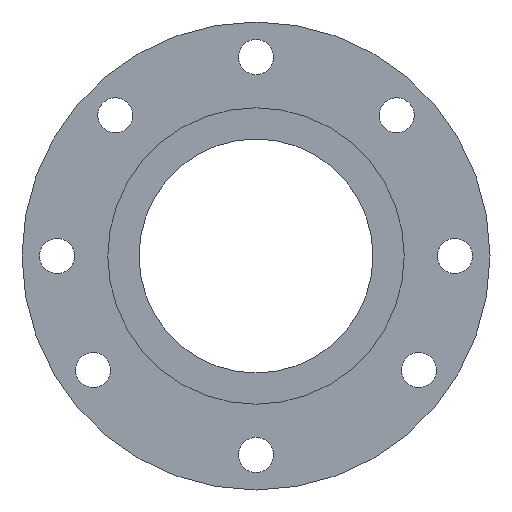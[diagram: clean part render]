
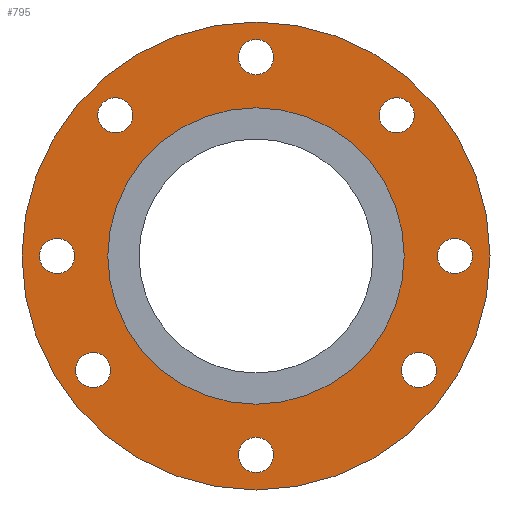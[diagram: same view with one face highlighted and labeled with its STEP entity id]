
A CAD part, left-side view. The second image highlights one B-rep face of the part: STEP entity #795.
In plain terms, the highlighted planar face has unit normal (-1, 0, 0).
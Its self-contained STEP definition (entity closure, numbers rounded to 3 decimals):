
#377=CARTESIAN_POINT('',(-14.,0.0,-60.));
#378=VERTEX_POINT('',#377);
#379=CARTESIAN_POINT('',(-14.,0.0,0.0));
#380=DIRECTION('',(1.0,0.0,0.0));
#381=DIRECTION('',(0.0,0.0,-1.0));
#382=AXIS2_PLACEMENT_3D('',#379,#380,#381);
#383=CIRCLE('',#382,60.);
#384=EDGE_CURVE('',#378,#378,#383,.T.);
#418=CARTESIAN_POINT('',(-14.,0.,55.5));
#419=VERTEX_POINT('',#418);
#420=CARTESIAN_POINT('',(-14.,0.,51.));
#421=DIRECTION('',(1.0,0.0,0.0));
#422=DIRECTION('',(0.0,0.0,-1.0));
#423=AXIS2_PLACEMENT_3D('',#420,#421,#422);
#424=CIRCLE('',#423,4.5);
#425=EDGE_CURVE('',#419,#419,#424,.T.);
#459=CARTESIAN_POINT('',(-14.,-51.,4.5));
#460=VERTEX_POINT('',#459);
#461=CARTESIAN_POINT('',(-14.,-51.,0.0));
#462=DIRECTION('',(1.0,0.0,0.0));
#463=DIRECTION('',(0.0,0.0,-1.0));
#464=AXIS2_PLACEMENT_3D('',#461,#462,#463);
#465=CIRCLE('',#464,4.5);
#466=EDGE_CURVE('',#460,#460,#465,.T.);
#500=CARTESIAN_POINT('',(-14.,51.,4.5));
#501=VERTEX_POINT('',#500);
#502=CARTESIAN_POINT('',(-14.,51.,0.0));
#503=DIRECTION('',(1.0,0.0,0.0));
#504=DIRECTION('',(0.0,0.0,-1.0));
#505=AXIS2_PLACEMENT_3D('',#502,#503,#504);
#506=CIRCLE('',#505,4.5);
#507=EDGE_CURVE('',#501,#501,#506,.T.);
#541=CARTESIAN_POINT('',(-14.,-41.777,-24.752));
#542=VERTEX_POINT('',#541);
#543=CARTESIAN_POINT('',(-14.,-41.777,-29.252));
#544=DIRECTION('',(1.0,0.0,0.0));
#545=DIRECTION('',(0.0,0.0,-1.0));
#546=AXIS2_PLACEMENT_3D('',#543,#544,#545);
#547=CIRCLE('',#546,4.5);
#548=EDGE_CURVE('',#542,#542,#547,.T.);
#582=CARTESIAN_POINT('',(-14.,0.,-46.5));
#583=VERTEX_POINT('',#582);
#584=CARTESIAN_POINT('',(-14.,0.0,-51.));
#585=DIRECTION('',(1.0,0.0,0.0));
#586=DIRECTION('',(0.0,0.0,-1.0));
#587=AXIS2_PLACEMENT_3D('',#584,#585,#586);
#588=CIRCLE('',#587,4.5);
#589=EDGE_CURVE('',#583,#583,#588,.T.);
#623=CARTESIAN_POINT('',(-14.,41.777,-24.752));
#624=VERTEX_POINT('',#623);
#625=CARTESIAN_POINT('',(-14.,41.777,-29.252));
#626=DIRECTION('',(1.0,0.0,0.0));
#627=DIRECTION('',(0.0,0.0,-1.0));
#628=AXIS2_PLACEMENT_3D('',#625,#626,#627);
#629=CIRCLE('',#628,4.5);
#630=EDGE_CURVE('',#624,#624,#629,.T.);
#664=CARTESIAN_POINT('',(-14.,36.062,40.562));
#665=VERTEX_POINT('',#664);
#666=CARTESIAN_POINT('',(-14.,36.062,36.062));
#667=DIRECTION('',(1.0,0.0,0.0));
#668=DIRECTION('',(0.0,0.0,-1.0));
#669=AXIS2_PLACEMENT_3D('',#666,#667,#668);
#670=CIRCLE('',#669,4.5);
#671=EDGE_CURVE('',#665,#665,#670,.T.);
#705=CARTESIAN_POINT('',(-14.,-36.062,40.562));
#706=VERTEX_POINT('',#705);
#707=CARTESIAN_POINT('',(-14.,-36.062,36.062));
#708=DIRECTION('',(1.0,0.0,0.0));
#709=DIRECTION('',(0.0,0.0,-1.0));
#710=AXIS2_PLACEMENT_3D('',#707,#708,#709);
#711=CIRCLE('',#710,4.5);
#712=EDGE_CURVE('',#706,#706,#711,.T.);
#745=CARTESIAN_POINT('',(-14.,0.0,-38.0));
#746=VERTEX_POINT('',#745);
#747=CARTESIAN_POINT('',(-14.,0.0,0.0));
#748=DIRECTION('',(1.0,0.0,0.0));
#749=DIRECTION('',(0.0,0.0,-1.0));
#750=AXIS2_PLACEMENT_3D('',#747,#748,#749);
#751=CIRCLE('',#750,38.0);
#752=EDGE_CURVE('',#746,#746,#751,.T.);
#760=CARTESIAN_POINT('',(-14.,0.0,-49.));
#761=DIRECTION('',(-1.0,0.0,0.0));
#762=DIRECTION('',(0.0,0.0,1.0));
#763=AXIS2_PLACEMENT_3D('',#760,#761,#762);
#764=PLANE('',#763);
#765=ORIENTED_EDGE('',*,*,#384,.F.);
#766=EDGE_LOOP('',(#765));
#767=FACE_OUTER_BOUND('',#766,.T.);
#768=ORIENTED_EDGE('',*,*,#425,.T.);
#769=EDGE_LOOP('',(#768));
#770=FACE_BOUND('',#769,.T.);
#771=ORIENTED_EDGE('',*,*,#466,.T.);
#772=EDGE_LOOP('',(#771));
#773=FACE_BOUND('',#772,.T.);
#774=ORIENTED_EDGE('',*,*,#507,.T.);
#775=EDGE_LOOP('',(#774));
#776=FACE_BOUND('',#775,.T.);
#777=ORIENTED_EDGE('',*,*,#548,.T.);
#778=EDGE_LOOP('',(#777));
#779=FACE_BOUND('',#778,.T.);
#780=ORIENTED_EDGE('',*,*,#589,.T.);
#781=EDGE_LOOP('',(#780));
#782=FACE_BOUND('',#781,.T.);
#783=ORIENTED_EDGE('',*,*,#630,.T.);
#784=EDGE_LOOP('',(#783));
#785=FACE_BOUND('',#784,.T.);
#786=ORIENTED_EDGE('',*,*,#671,.T.);
#787=EDGE_LOOP('',(#786));
#788=FACE_BOUND('',#787,.T.);
#789=ORIENTED_EDGE('',*,*,#712,.T.);
#790=EDGE_LOOP('',(#789));
#791=FACE_BOUND('',#790,.T.);
#792=ORIENTED_EDGE('',*,*,#752,.T.);
#793=EDGE_LOOP('',(#792));
#794=FACE_BOUND('',#793,.T.);
#795=ADVANCED_FACE('',(#767,#770,#773,#776,#779,#782,#785,#788,#791,#794),#764,.T.);
